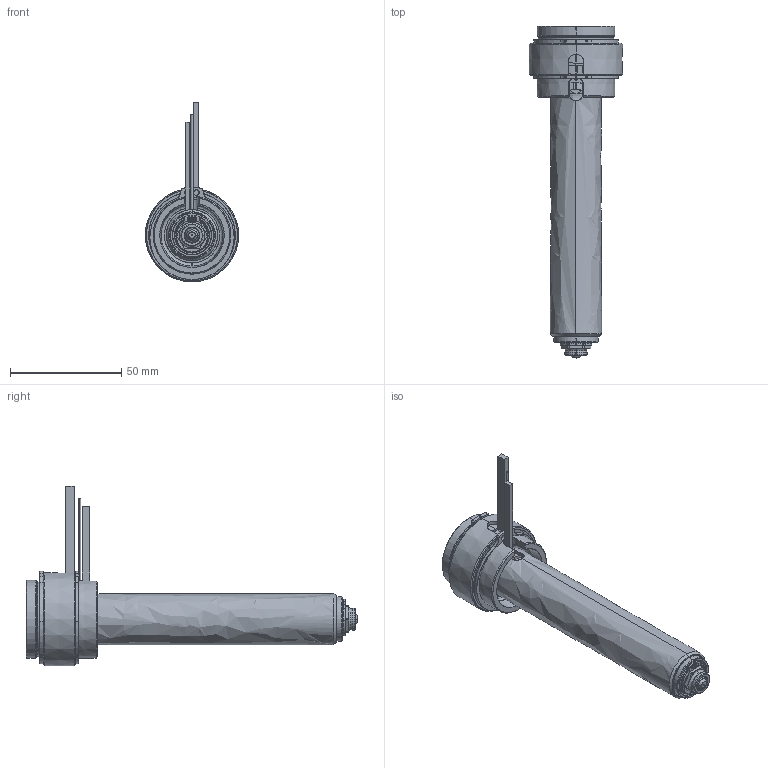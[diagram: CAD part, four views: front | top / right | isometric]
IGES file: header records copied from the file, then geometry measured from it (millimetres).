
Start section: SolidWorks IGES file using analytic representation for surfaces
Global section: file name: C:\Documents and Settings\ws-20\Desktop\TEM\UGER3553-S-A-1 [Øb-0.50  ØC-7.0].IGS; native system: SolidWorks 2012; preprocessor: SolidWorks 2012; author: ws-20; date: 120410.101136; units: millimetre
Bounding box: 42 x 149.4 x 80.9 mm (x, y, z)
Surface area: 45312 mm2 (no closed solid volume)
Topology: 0 solids, 0 shells, 210 faces, 3646 edges, 3646 vertices
Faces by surface type: revolution 134, bspline 76
